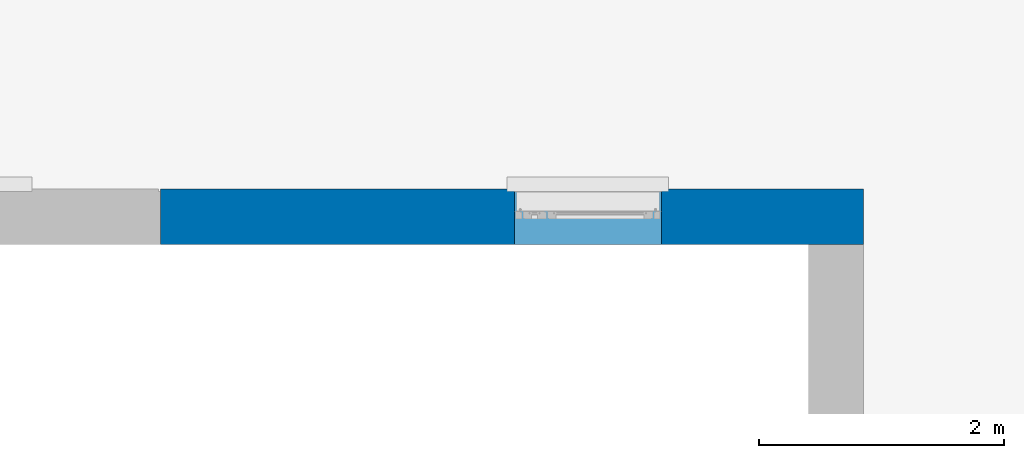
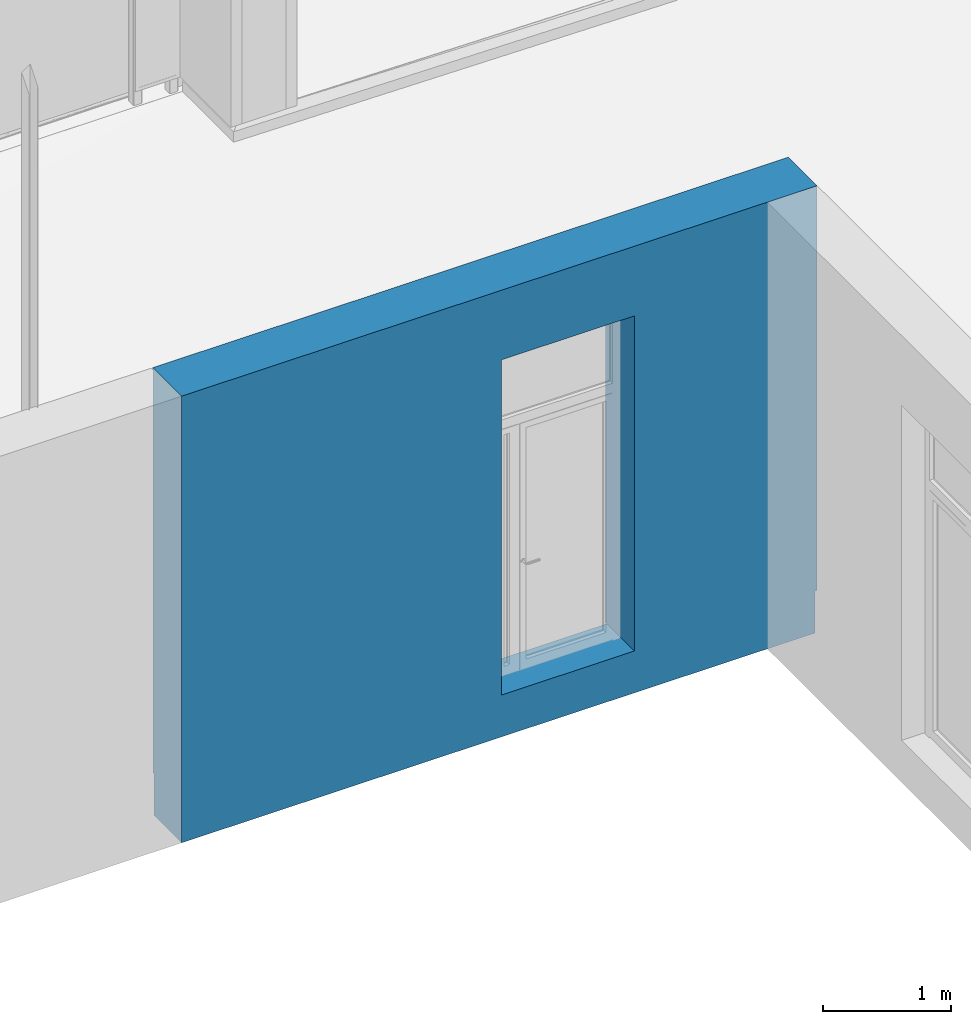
# One storey, part 24 of 77: 1 wall, 2 openings.
"""IFC2X3 building model written with IfcOpenShell, lengths in millimetres."""

from ifc_helpers import new_model, entity, si_unit, converted_unit, derived_unit, direction, frame, frame_2d, origin, place, context, subcontext, project, spatial, rectangle, extrude, faceted_brep, material, layer, layer_set, layer_usage, type_object, element, save


model = new_model("IFC2X3")

# Units and contexts
model_context = context("Model", 3, precision=0.01, world=origin(), true_north=direction((6.12303176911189e-17, 1.0)))
body_context = subcontext(model_context, "Body", "Model", "MODEL_VIEW")
ifc_project = project(units=[si_unit("LENGTHUNIT", "METRE", prefix="MILLI"), si_unit("AREAUNIT", "SQUARE_METRE"), si_unit("VOLUMEUNIT", "CUBIC_METRE"), converted_unit("PLANEANGLEUNIT", "DEGREE", entity("IfcRatioMeasure", 0.0174532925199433), si_unit("PLANEANGLEUNIT", "RADIAN"), dimensions=[0, 0, 0, 0, 0, 0, 0]), si_unit("MASSUNIT", "GRAM", prefix="KILO"), derived_unit("MASSDENSITYUNIT", [(si_unit("MASSUNIT", "GRAM", prefix="KILO"), 1), (si_unit("LENGTHUNIT", "METRE"), -3)]), si_unit("TIMEUNIT", "SECOND"), si_unit("FREQUENCYUNIT", "HERTZ"), si_unit("THERMODYNAMICTEMPERATUREUNIT", "DEGREE_CELSIUS"), derived_unit("THERMALTRANSMITTANCEUNIT", [(si_unit("MASSUNIT", "GRAM", prefix="KILO"), 1), (si_unit("THERMODYNAMICTEMPERATUREUNIT", "KELVIN"), -1), (si_unit("TIMEUNIT", "SECOND"), -3)]), derived_unit("VOLUMETRICFLOWRATEUNIT", [(si_unit("LENGTHUNIT", "METRE"), 3), (si_unit("TIMEUNIT", "SECOND"), -1)]), si_unit("ELECTRICCURRENTUNIT", "AMPERE"), si_unit("ELECTRICVOLTAGEUNIT", "VOLT"), si_unit("POWERUNIT", "WATT"), si_unit("FORCEUNIT", "NEWTON", prefix="KILO"), si_unit("ILLUMINANCEUNIT", "LUX"), si_unit("LUMINOUSFLUXUNIT", "LUMEN"), si_unit("LUMINOUSINTENSITYUNIT", "CANDELA"), derived_unit("USERDEFINED", [(si_unit("MASSUNIT", "GRAM", prefix="KILO"), -1), (si_unit("LENGTHUNIT", "METRE"), -2), (si_unit("TIMEUNIT", "SECOND"), 3), (si_unit("LUMINOUSFLUXUNIT", "LUMEN"), 1)]), derived_unit("LINEARVELOCITYUNIT", [(si_unit("LENGTHUNIT", "METRE"), 1), (si_unit("TIMEUNIT", "SECOND"), -1)]), si_unit("PRESSUREUNIT", "PASCAL"), derived_unit("USERDEFINED", [(si_unit("LENGTHUNIT", "METRE"), -2), (si_unit("MASSUNIT", "GRAM", prefix="KILO"), 1), (si_unit("TIMEUNIT", "SECOND"), -2)])], contexts=[model_context])

# Site, building, storey
site_placement = place(None, origin())
site = spatial("IfcSite", under=ifc_project, at=site_placement, Name="Default", CompositionType="ELEMENT")
building_placement = place(site_placement, origin())
building = spatial("IfcBuilding", under=site, at=building_placement, CompositionType="ELEMENT")
storey_placement = place(building_placement, origin())
storey = spatial("IfcBuildingStorey", under=building, at=storey_placement, Name="1. KORRUS", CompositionType="ELEMENT", Elevation=0.0)

# Wall, openings
ifc_material_1 = material(Name="RECKLI 1 173 THUR by Polantis 2016-toon4")
ifc_layer_1 = layer(ifc_material_1, 100.0)
ifc_material_2 = material(Name="Soojusisolatsioon EPS")
ifc_layer_2 = layer(ifc_material_2, 200.0)
ifc_material_3 = material(Name="r/b")
ifc_layer_3 = layer(ifc_material_3, 150.0)
ifc_layer_set = layer_set([ifc_layer_1, ifc_layer_2, ifc_layer_3], Name="Basic Wall:VS-1_toon-a")
ifc_layer_usage = layer_usage(ifc_layer_set, "AXIS2", "NEGATIVE", 225.0)
wall_type = type_object("IfcWallType", Name="Basic Wall:VS-1_toon-a", PredefinedType="STANDARD", material=ifc_layer_set)
wall_placement = place(storey_placement, frame((3910.0, 27825.0, -400.0)))
wall = element("IfcWallStandardCase", 1, at=wall_placement, inside=storey, type_object=wall_type, material=ifc_layer_usage, Name="Basic Wall:VS-1_toon-a", ObjectType="Basic Wall:VS-1_toon-a", context=body_context, shape_type="SweptSolid", body=[
    extrude(rectangle(XDim=5739.99999999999, YDim=450.000000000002, at=frame_2d((2869.99999999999, 8.10018718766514e-13), x_axis=(-1.0, 0.0))), origin(), (0.0, 0.0, 1.0), 4265.0),
])
opening_1_placement = place(wall_placement, origin())
element("IfcOpeningElement", 2, at=opening_1_placement, cuts=wall, Name="Basic Wall:VS-1_toon-a", ObjectType="Opening", context=body_context, shape_type="Brep", body=[
    faceted_brep([(-4340.0, 205.0, 400.0), (-4340.0, 205.0, 0.0), (-4360.0, 225.0, 0.0), (-4360.0, 225.0, 400.0), (-4340.0, -4535.0, 400.0), (-4360.0, -4535.0, 400.0), (-4360.0, -4535.0, 0.0), (-4340.0, -4535.0, 0.0)], [[[0, 1, 2, 3]], [[4, 5, 6, 7]], [[1, 0, 4, 7]], [[2, 1, 7, 6]], [[3, 2, 6, 5]], [[0, 3, 5, 4]]]),
    faceted_brep([(-4340.0, 205.0, 400.0), (-4360.0, 225.0, 400.0), (-4360.0, 225.0, 0.0), (-4340.0, 205.0, 0.0), (0.0, 205.0, 400.0), (0.0, 205.0, 0.0), (0.0, 225.0, 0.0), (0.0, 225.0, 400.0)], [[[0, 1, 2, 3]], [[4, 5, 6, 7]], [[1, 0, 4, 7]], [[2, 1, 7, 6]], [[3, 2, 6, 5]], [[0, 3, 5, 4]]]),
    faceted_brep([(5720.0, 205.0, 400.0), (5740.0, 225.0, 400.0), (5740.0, 225.0, 0.0), (5720.0, 205.0, 0.0), (5720.0, -5894.94821928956, 400.0), (5720.0, -5894.94821928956, 0.0), (5740.0, -5874.94821928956, 0.0), (5740.0, -5874.94821928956, 400.0)], [[[0, 1, 2, 3]], [[4, 5, 6, 7]], [[1, 0, 4, 7]], [[2, 1, 7, 6]], [[3, 2, 6, 5]], [[0, 3, 5, 4]]]),
    faceted_brep([(10440.0, -5894.94821928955, 400.0), (10440.0, -5874.94821928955, 400.0), (10440.0, -5874.94821928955, 0.0), (10440.0, -5894.94821928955, 0.0), (10970.0, -5894.94821928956, 400.0), (10970.0, -5894.94821928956, 0.0), (10970.0, -5874.94821928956, 0.0), (10970.0, -5874.94821928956, 400.0)], [[[0, 1, 2, 3]], [[4, 5, 6, 7]], [[1, 0, 4, 7]], [[2, 1, 7, 6]], [[3, 2, 6, 5]], [[0, 3, 5, 4]]]),
    faceted_brep([(36020.0, -5894.94821928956, 400.0), (36040.0, -5874.94821928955, 400.0), (36040.0, -5874.94821928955, 0.0), (36020.0, -5894.94821928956, 0.0), (36020.0, -12035.0, 400.0), (36020.0, -12035.0, 0.0), (36040.0, -12035.0, 0.0), (36040.0, -12035.0, 400.0)], [[[0, 1, 2, 3]], [[4, 5, 6, 7]], [[1, 0, 4, 7]], [[2, 1, 7, 6]], [[3, 2, 6, 5]], [[0, 3, 5, 4]]]),
    faceted_brep([(36020.0, -28255.0, 400.0), (36040.0, -28275.0, 400.0), (36040.0, -28275.0, 0.0), (36020.0, -28255.0, 0.0), (30890.0, -28255.0, 400.0), (30890.0, -28255.0, 0.0), (30890.0, -28275.0, 0.0), (30890.0, -28275.0, 400.0)], [[[0, 1, 2, 3]], [[4, 5, 6, 7]], [[1, 0, 4, 7]], [[2, 1, 7, 6]], [[3, 2, 6, 5]], [[0, 3, 5, 4]]]),
    faceted_brep([(7490.0, -28255.0, 400.0), (7490.0, -28275.0, 400.0), (7490.0, -28275.0, 0.0), (7490.0, -28255.0, 0.0), (3705.0, -28255.0, 400.0), (3705.0, -28255.0, 0.0), (3705.0, -28275.0, 0.0), (3705.0, -28275.0, 400.0)], [[[0, 1, 2, 3]], [[4, 5, 6, 7]], [[1, 0, 4, 7]], [[2, 1, 7, 6]], [[3, 2, 6, 5]], [[0, 3, 5, 4]]]),
    faceted_brep([(36020.0, -15065.0, 400.0), (36040.0, -15065.0, 400.0), (36040.0, -15065.0, 0.0), (36020.0, -15065.0, 0.0), (36020.0, -19181.6699999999, 400.0), (36020.0, -19181.6699999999, 0.0), (36040.0, -19181.6699999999, 0.0), (36040.0, -19181.6699999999, 400.0)], [[[0, 1, 2, 3]], [[4, 5, 6, 7]], [[1, 0, 4, 7]], [[2, 1, 7, 6]], [[3, 2, 6, 5]], [[0, 3, 5, 4]]]),
    faceted_brep([(27290.0, -28255.0, 400.0), (27290.0, -28275.0, 400.0), (27290.0, -28275.0, 0.0), (27290.0, -28255.0, 0.0), (24890.0, -28255.0, 400.0), (24890.0, -28255.0, 0.0), (24890.0, -28275.0, 0.0), (24890.0, -28275.0, 400.0)], [[[0, 1, 2, 3]], [[4, 5, 6, 7]], [[1, 0, 4, 7]], [[2, 1, 7, 6]], [[3, 2, 6, 5]], [[0, 3, 5, 4]]]),
    faceted_brep([(-119.969176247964, -28255.0, 400.0), (-119.969176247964, -28275.0, 400.0), (-119.969176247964, -28275.0, 0.0), (-119.969176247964, -28255.0, 0.0), (-2604.96917624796, -28255.0, 400.0), (-2604.96917624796, -28255.0, 0.0), (-2604.96917624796, -28275.0, 0.0), (-2604.96917624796, -28275.0, 400.0)], [[[0, 1, 2, 3]], [[4, 5, 6, 7]], [[1, 0, 4, 7]], [[2, 1, 7, 6]], [[3, 2, 6, 5]], [[0, 3, 5, 4]]]),
    faceted_brep([(12090.0, -28255.0, 400.0), (12090.0, -28275.0, 400.0), (12090.0, -28275.0, 0.0), (12090.0, -28255.0, 0.0), (11090.0, -28255.0, 400.0), (11090.0, -28255.0, 0.0), (11090.0, -28275.0, 0.0), (11090.0, -28275.0, 400.0)], [[[0, 1, 2, 3]], [[4, 5, 6, 7]], [[1, 0, 4, 7]], [[2, 1, 7, 6]], [[3, 2, 6, 5]], [[0, 3, 5, 4]]]),
    faceted_brep([(16690.0316629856, -28255.0, 400.0), (16690.0316629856, -28275.0, 400.0), (16690.0316629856, -28275.0, 0.0), (16690.0316629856, -28255.0, 0.0), (15690.0, -28255.0, 400.0), (15690.0, -28255.0, 0.0), (15690.0, -28275.0, 0.0), (15690.0, -28275.0, 400.0)], [[[0, 1, 2, 3]], [[4, 5, 6, 7]], [[1, 0, 4, 7]], [[2, 1, 7, 6]], [[3, 2, 6, 5]], [[0, 3, 5, 4]]]),
    faceted_brep([(21290.0316629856, -28255.0, 400.0), (21290.0316629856, -28275.0, 400.0), (21290.0316629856, -28275.0, 0.0), (21290.0316629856, -28255.0, 0.0), (20290.0, -28255.0, 400.0), (20290.0, -28255.0, 0.0), (20290.0, -28275.0, 0.0), (20290.0, -28275.0, 400.0)], [[[0, 1, 2, 3]], [[4, 5, 6, 7]], [[1, 0, 4, 7]], [[2, 1, 7, 6]], [[3, 2, 6, 5]], [[0, 3, 5, 4]]]),
    faceted_brep([(36020.0, -23410.0, 400.0), (36040.0, -23410.0, 400.0), (36040.0, -23410.0, 0.0), (36020.0, -23410.0, 0.0), (36020.0, -28255.0, 400.0), (36020.0, -28255.0, 0.0), (36040.0, -28275.0, 0.0), (36040.0, -28275.0, 400.0)], [[[0, 1, 2, 3]], [[4, 5, 6, 7]], [[1, 0, 4, 7]], [[2, 1, 7, 6]], [[3, 2, 6, 5]], [[0, 3, 5, 4]]]),
    faceted_brep([(36020.0, -19181.6699999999, 400.0), (36040.0, -19181.6699999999, 400.0), (36040.0, -19181.6699999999, 0.0), (36020.0, -19181.6699999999, 0.0), (36020.0, -23410.0, 400.0), (36020.0, -23410.0, 0.0), (36040.0, -23410.0, 0.0), (36040.0, -23410.0, 400.0)], [[[0, 1, 2, 3]], [[4, 5, 6, 7]], [[1, 0, 4, 7]], [[2, 1, 7, 6]], [[3, 2, 6, 5]], [[0, 3, 5, 4]]]),
    faceted_brep([(36020.0, -12035.0, 400.0), (36040.0, -12035.0, 400.0), (36040.0, -12035.0, 0.0), (36020.0, -12035.0, 0.0), (36020.0, -15065.0, 400.0), (36020.0, -15065.0, 0.0), (36040.0, -15065.0, 0.0), (36040.0, -15065.0, 400.0)], [[[0, 1, 2, 3]], [[4, 5, 6, 7]], [[1, 0, 4, 7]], [[2, 1, 7, 6]], [[3, 2, 6, 5]], [[0, 3, 5, 4]]]),
    faceted_brep([(30060.1035702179, -5894.94821928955, 400.0), (30060.1035702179, -5874.94821928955, 400.0), (30060.1035702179, -5874.94821928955, 0.0), (30060.1035702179, -5894.94821928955, 0.0), (36020.0, -5894.94821928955, 400.0), (36020.0, -5894.94821928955, 0.0), (36040.0, -5874.94821928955, 0.0), (36040.0, -5874.94821928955, 400.0)], [[[0, 1, 2, 3]], [[4, 5, 6, 7]], [[1, 0, 4, 7]], [[2, 1, 7, 6]], [[3, 2, 6, 5]], [[0, 3, 5, 4]]]),
    faceted_brep([(24753.2161487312, -5894.94821928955, 400.0), (24753.2161487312, -5874.94821928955, 400.0), (24753.2161487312, -5874.94821928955, 0.0), (24753.2161487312, -5894.94821928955, 0.0), (30060.1035702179, -5894.94821928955, 400.0), (30060.1035702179, -5894.94821928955, 0.0), (30060.1035702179, -5874.94821928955, 0.0), (30060.1035702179, -5874.94821928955, 400.0)], [[[0, 1, 2, 3]], [[4, 5, 6, 7]], [[1, 0, 4, 7]], [[2, 1, 7, 6]], [[3, 2, 6, 5]], [[0, 3, 5, 4]]]),
    faceted_brep([(3705.0, -28255.0, 400.0), (3705.0, -28275.0, 400.0), (3705.0, -28275.0, 0.0), (3705.0, -28255.0, 0.0), (-119.969176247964, -28255.0, 400.0), (-119.969176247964, -28255.0, 0.0), (-119.969176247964, -28275.0, 0.0), (-119.969176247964, -28275.0, 400.0)], [[[0, 1, 2, 3]], [[4, 5, 6, 7]], [[1, 0, 4, 7]], [[2, 1, 7, 6]], [[3, 2, 6, 5]], [[0, 3, 5, 4]]]),
    faceted_brep([(18175.0, -5894.94821928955, 400.0), (18175.0, -5874.94821928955, 400.0), (18175.0, -5874.94821928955, 0.0), (18175.0, -5894.94821928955, 0.0), (24753.2161487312, -5894.94821928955, 400.0), (24753.2161487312, -5894.94821928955, 0.0), (24753.2161487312, -5874.94821928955, 0.0), (24753.2161487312, -5874.94821928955, 400.0)], [[[0, 1, 2, 3]], [[4, 5, 6, 7]], [[1, 0, 4, 7]], [[2, 1, 7, 6]], [[3, 2, 6, 5]], [[0, 3, 5, 4]]]),
    faceted_brep([(14343.3528910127, -5894.94821928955, 400.0), (14343.3528910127, -5874.94821928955, 400.0), (14343.3528910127, -5874.94821928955, 0.0), (14343.3528910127, -5894.94821928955, 0.0), (18175.0, -5894.94821928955, 400.0), (18175.0, -5894.94821928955, 0.0), (18175.0, -5874.94821928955, 0.0), (18175.0, -5874.94821928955, 400.0)], [[[0, 1, 2, 3]], [[4, 5, 6, 7]], [[1, 0, 4, 7]], [[2, 1, 7, 6]], [[3, 2, 6, 5]], [[0, 3, 5, 4]]]),
    faceted_brep([(10970.0, -5894.94821928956, 400.0), (10970.0, -5874.94821928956, 400.0), (10970.0, -5874.94821928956, 0.0), (10970.0, -5894.94821928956, 0.0), (14343.3528910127, -5894.94821928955, 400.0), (14343.3528910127, -5894.94821928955, 0.0), (14343.3528910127, -5874.94821928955, 0.0), (14343.3528910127, -5874.94821928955, 400.0)], [[[0, 1, 2, 3]], [[4, 5, 6, 7]], [[1, 0, 4, 7]], [[2, 1, 7, 6]], [[3, 2, 6, 5]], [[0, 3, 5, 4]]]),
    faceted_brep([(0.0, 205.0, 400.0), (0.0, 225.0, 400.0), (0.0, 225.0, 0.0), (0.0, 205.0, 0.0), (5720.0, 205.0, 400.0), (5720.0, 205.0, 0.0), (5740.0, 225.0, 0.0), (5740.0, 225.0, 400.0)], [[[0, 1, 2, 3]], [[4, 5, 6, 7]], [[1, 0, 4, 7]], [[2, 1, 7, 6]], [[3, 2, 6, 5]], [[0, 3, 5, 4]]]),
    faceted_brep([(-4340.0, -4535.0, 400.0), (-4340.0, -4535.0, 0.0), (-4360.0, -4535.0, 0.0), (-4360.0, -4535.0, 400.0), (-4340.0, -10084.9993027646, 400.0), (-4360.0, -10084.9993027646, 400.0), (-4360.0, -10084.9993027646, 0.0), (-4340.0, -10084.9993027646, 0.0)], [[[0, 1, 2, 3]], [[4, 5, 6, 7]], [[1, 0, 4, 7]], [[2, 1, 7, 6]], [[3, 2, 6, 5]], [[0, 3, 5, 4]]]),
    faceted_brep([(-4340.0, -10084.9993027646, 400.0), (-4340.0, -10084.9993027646, 0.0), (-4360.0, -10084.9993027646, 0.0), (-4360.0, -10084.9993027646, 400.0), (-4340.0, -15025.0, 400.0), (-4360.0, -15025.0, 400.0), (-4360.0, -15025.0, 0.0), (-4340.0, -15025.0, 0.0)], [[[0, 1, 2, 3]], [[4, 5, 6, 7]], [[1, 0, 4, 7]], [[2, 1, 7, 6]], [[3, 2, 6, 5]], [[0, 3, 5, 4]]]),
    faceted_brep([(5720.0, -5894.94821928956, 400.0), (5740.0, -5874.94821928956, 400.0), (5740.0, -5874.94821928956, 0.0), (5720.0, -5894.94821928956, 0.0), (6840.0, -5894.94821928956, 400.0), (6840.0, -5894.94821928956, 0.0), (6840.0, -5874.94821928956, 0.0), (6840.0, -5874.94821928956, 400.0)], [[[0, 1, 2, 3]], [[4, 5, 6, 7]], [[1, 0, 4, 7]], [[2, 1, 7, 6]], [[3, 2, 6, 5]], [[0, 3, 5, 4]]]),
])
opening_2_placement = place(wall_placement, frame((2890.0, -225.0, 400.0)))
element("IfcOpeningElement", 3, at=opening_2_placement, cuts=wall, Name="Door_klaas-alumiinium-2p-ebasym-ylaframuug:VU12-1_1200x3200:1", ObjectType="Opening", context=body_context, shape_type="SweptSolid", body=[
    extrude(rectangle(XDim=3200.00000000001, YDim=1199.99999999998, at=frame_2d((1600.00000000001, 599.999999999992), x_axis=(-1.0, 0.0))), frame((0.0, 0.0, 0.0), z_axis=(0.0, 1.0, 0.0), x_axis=(0.0, 0.0, 1.0)), (0.0, 0.0, 1.0), 450.0),
])

save(model, "model.ifc")
